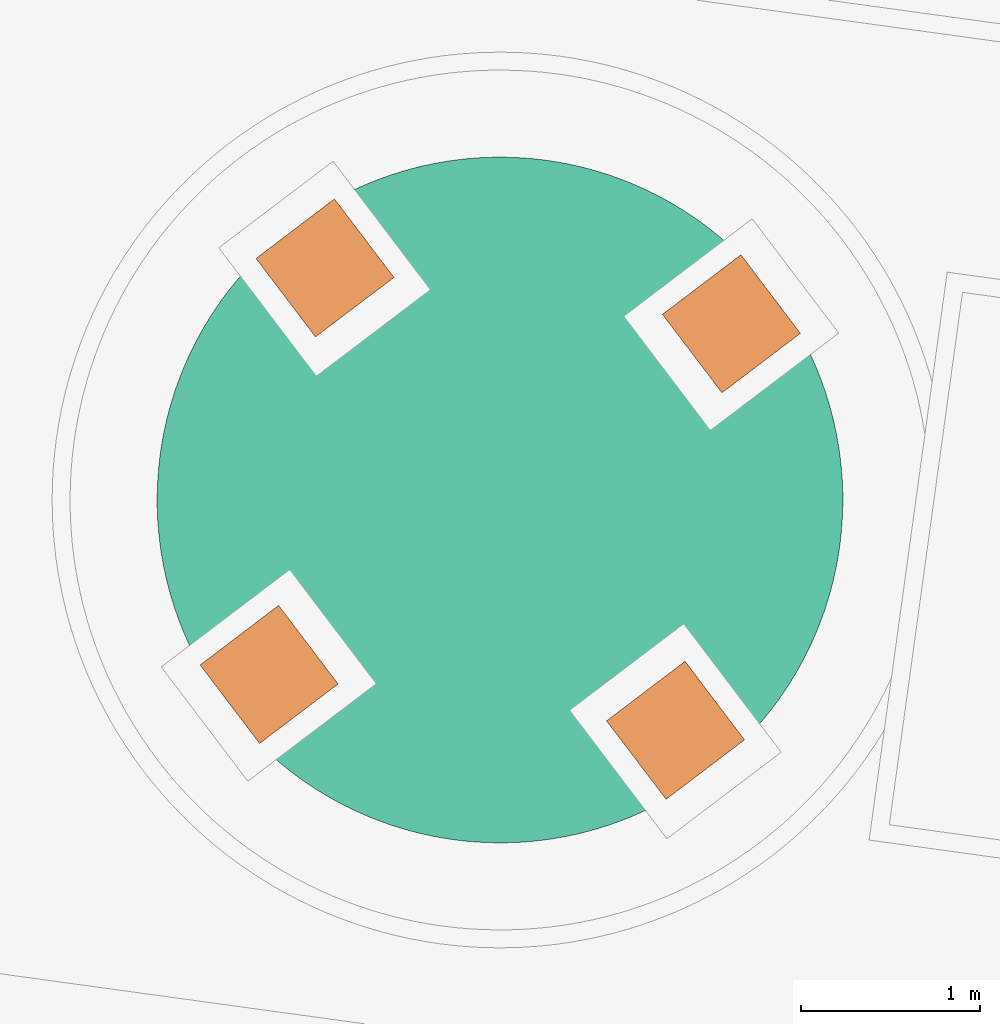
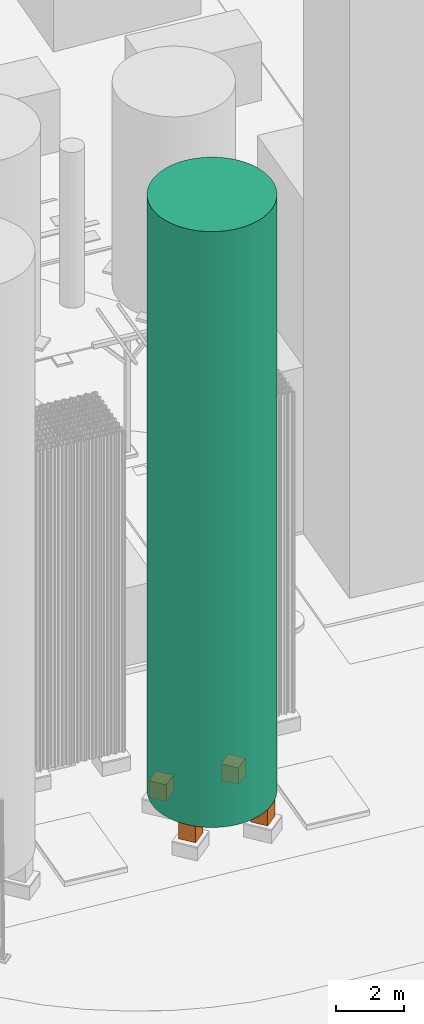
# Not in any storey, part 32 of 75: 4 proxies, 1 tank.
"""IFC4 model written with IfcOpenShell, lengths in metres."""

from ifc_helpers import new_model, si_unit, direction, origin_with_axes, place, context, subcontext, project, spatial, triangles, element, aggregate, save


model = new_model("IFC4")

# Units and contexts
model_context = context("Model", 3, precision=1e-05, world=origin_with_axes(), true_north=direction((0.0, 1.0)))
body_context = subcontext(model_context, "Body", "Model", "MODEL_VIEW")
ifc_project = project(units=[si_unit("AREAUNIT", "SQUARE_METRE"), si_unit("VOLUMEUNIT", "CUBIC_METRE"), si_unit("LENGTHUNIT", "METRE")], contexts=[model_context])

# Site
site_placement = place(None, origin_with_axes())
site = spatial("IfcSite", under=ifc_project, at=site_placement, Name="Parcela industrial Jinhong")

# Tank, proxies
tank_placement = place(site_placement, origin_with_axes())
tank = element("IfcTank", 1, at=tank_placement, inside=site, Name="Depósito de nitrógeno líquido SV1801B · Envolvente cilíndrica del depósito", PredefinedType="STORAGE", context=body_context, shape_type="Tessellation", body=[
    triangles([(45.901389, 31.204556, 23.627), (45.880279, 31.081099, 23.627), (45.891845, 31.142655, 23.627), (45.880279, 31.081099, 2.2), (45.901389, 31.204556, 2.2), (45.891845, 31.142655, 2.2), (45.91438, 31.329129, 23.627), (45.908904, 31.266736, 23.627), (45.908904, 31.266736, 2.2), (45.91438, 31.329129, 2.2), (45.919195, 31.454285, 23.627), (45.917811, 31.391668, 23.627), (45.917811, 31.391668, 2.2), (45.919195, 31.454285, 2.2), (45.915814, 31.579488, 23.627), (45.918529, 31.516914, 23.627), (45.918529, 31.516914, 2.2), (45.915814, 31.579488, 2.2), (45.904252, 31.704202, 23.627), (45.911053, 31.641939, 23.627), (45.911053, 31.641939, 2.2), (45.904252, 31.704202, 2.2), (45.884558, 31.827892, 23.627), (45.895417, 31.766208, 23.627), (45.895417, 31.766208, 2.2), (45.884558, 31.827892, 2.2), (45.856816, 31.95003, 23.627), (45.871686, 31.889188, 23.627), (45.871686, 31.889188, 2.2), (45.856816, 31.95003, 2.2), (45.821145, 32.070092, 23.627), (45.839963, 32.010353, 23.627), (45.839963, 32.010353, 2.2), (45.821145, 32.070092, 2.2), (45.777699, 32.187564, 23.627), (45.800383, 32.129183, 23.627), (45.800383, 32.129183, 2.2), (45.777699, 32.187564, 2.2), (45.726662, 32.301942, 23.627), (45.753116, 32.245171, 23.627), (45.753116, 32.245171, 2.2), (45.726662, 32.301942, 2.2), (45.668254, 32.412738, 23.627), (45.698365, 32.357818, 23.627), (45.698365, 32.357818, 2.2), (45.668254, 32.412738, 2.2), (45.602725, 32.519477, 23.627), (45.636363, 32.466644, 23.627), (45.636363, 32.466644, 2.2), (45.602725, 32.519477, 2.2), (45.530355, 32.621701, 23.627), (45.567376, 32.571181, 23.627), (45.567376, 32.571181, 2.2), (45.530355, 32.621701, 2.2), (45.451454, 32.718973, 23.627), (45.4917, 32.670983, 23.627), (45.4917, 32.670983, 2.2), (45.451454, 32.718973, 2.2), (45.36636, 32.810877, 23.627), (45.409659, 32.765621, 23.627), (45.409659, 32.765621, 2.2), (45.36636, 32.810877, 2.2), (45.275438, 32.897018, 23.627), (45.321604, 32.854691, 23.627), (45.321604, 32.854691, 2.2), (45.275438, 32.897018, 2.2), (45.179076, 32.977028, 23.627), (45.227911, 32.937812, 23.627), (45.227911, 32.937812, 2.2), (45.179076, 32.977028, 2.2), (45.077687, 33.050565, 23.627), (45.128983, 33.014626, 23.627), (45.128983, 33.014626, 2.2), (45.077687, 33.050565, 2.2), (44.971707, 33.117313, 23.627), (45.025243, 33.084806, 23.627), (45.025243, 33.084806, 2.2), (44.971707, 33.117313, 2.2), (44.861587, 33.176987, 23.627), (44.917135, 33.148051, 23.627), (44.917135, 33.148051, 2.2), (44.861587, 33.176987, 2.2), (44.747801, 33.22933, 23.627), (44.805122, 33.204089, 23.627), (44.805122, 33.204089, 2.2), (44.747801, 33.22933, 2.2), (44.630835, 33.27412, 23.627), (44.689684, 33.252682, 23.627), (44.689684, 33.252682, 2.2), (44.630835, 33.27412, 2.2), (44.511189, 33.311164, 23.627), (44.571315, 33.293621, 23.627), (44.571315, 33.293621, 2.2), (44.511189, 33.311164, 2.2), (44.389377, 33.340303, 23.627), (44.450522, 33.32673, 23.627), (44.450522, 33.32673, 2.2), (44.389377, 33.340303, 2.2), (44.265921, 33.361413, 23.627), (44.327822, 33.351868, 23.627), (44.327822, 33.351868, 2.2), (44.265921, 33.361413, 2.2), (44.141347, 33.374404, 23.627), (44.20374, 33.368928, 23.627), (44.20374, 33.368928, 2.2), (44.141347, 33.374404, 2.2), (44.016191, 33.379219, 23.627), (44.078809, 33.377835, 23.627), (44.078809, 33.377835, 2.2), (44.016191, 33.379219, 2.2), (43.890988, 33.375838, 23.627), (43.953562, 33.378553, 23.627), (43.953562, 33.378553, 2.2), (43.890988, 33.375838, 2.2), (43.766275, 33.364276, 23.627), (43.828537, 33.371077, 23.627), (43.828537, 33.371077, 2.2), (43.766275, 33.364276, 2.2), (43.642584, 33.344581, 23.627), (43.704268, 33.355441, 23.627), (43.704268, 33.355441, 2.2), (43.642584, 33.344581, 2.2), (43.520446, 33.31684, 23.627), (43.581288, 33.33171, 23.627), (43.581288, 33.33171, 2.2), (43.520446, 33.31684, 2.2), (43.400384, 33.281169, 23.627), (43.460124, 33.299987, 23.627), (43.460124, 33.299987, 2.2), (43.400384, 33.281169, 2.2), (43.282913, 33.237723, 23.627), (43.341293, 33.260407, 23.627), (43.341293, 33.260407, 2.2), (43.282913, 33.237723, 2.2), (43.168534, 33.186686, 23.627), (43.225306, 33.21314, 23.627), (43.225306, 33.21314, 2.2), (43.168534, 33.186686, 2.2), (43.057738, 33.128278, 23.627), (43.112658, 33.158389, 23.627), (43.112658, 33.158389, 2.2), (43.057738, 33.128278, 2.2), (42.951, 33.062749, 23.627), (43.003833, 33.096387, 23.627), (43.003833, 33.096387, 2.2), (42.951, 33.062749, 2.2), (42.848775, 32.990379, 23.627), (42.899295, 33.0274, 23.627), (42.899295, 33.0274, 2.2), (42.848775, 32.990379, 2.2), (42.751503, 32.911478, 23.627), (42.799494, 32.951724, 23.627), (42.799494, 32.951724, 2.2), (42.751503, 32.911478, 2.2), (42.6596, 32.826384, 23.627), (42.704855, 32.869683, 23.627), (42.704855, 32.869683, 2.2), (42.6596, 32.826384, 2.2), (42.573458, 32.735461, 23.627), (42.615785, 32.781627, 23.627), (42.615785, 32.781627, 2.2), (42.573458, 32.735461, 2.2), (42.493448, 32.639099, 23.627), (42.532665, 32.687935, 23.627), (42.532665, 32.687935, 2.2), (42.493448, 32.639099, 2.2), (42.419912, 32.537711, 23.627), (42.45585, 32.589007, 23.627), (42.45585, 32.589007, 2.2), (42.419912, 32.537711, 2.2), (42.353163, 32.43173, 23.627), (42.38567, 32.485267, 23.627), (42.38567, 32.485267, 2.2), (42.353163, 32.43173, 2.2), (42.29349, 32.321611, 23.627), (42.322426, 32.377159, 23.627), (42.322426, 32.377159, 2.2), (42.29349, 32.321611, 2.2), (42.241146, 32.207825, 23.627), (42.266387, 32.265146, 23.627), (42.266387, 32.265146, 2.2), (42.241146, 32.207825, 2.2), (42.196356, 32.090858, 23.627), (42.217794, 32.149708, 23.627), (42.217794, 32.149708, 2.2), (42.196356, 32.090858, 2.2), (42.159313, 31.971213, 23.627), (42.176856, 32.031339, 23.627), (42.176856, 32.031339, 2.2), (42.159313, 31.971213, 2.2), (42.130173, 31.849401, 23.627), (42.143746, 31.910546, 23.627), (42.143746, 31.910546, 2.2), (42.130173, 31.849401, 2.2), (42.109063, 31.725944, 23.627), (42.118608, 31.787845, 23.627), (42.118608, 31.787845, 2.2), (42.109063, 31.725944, 2.2), (42.096073, 31.601371, 23.627), (42.101549, 31.663764, 23.627), (42.101549, 31.663764, 2.2), (42.096073, 31.601371, 2.2), (42.091258, 31.476215, 23.627), (42.092641, 31.538833, 23.627), (42.092641, 31.538833, 2.2), (42.091258, 31.476215, 2.2), (42.094639, 31.351012, 23.627), (42.091924, 31.413586, 23.627), (42.091924, 31.413586, 2.2), (42.094639, 31.351012, 2.2), (42.106201, 31.226298, 23.627), (42.099399, 31.288561, 23.627), (42.099399, 31.288561, 2.2), (42.106201, 31.226298, 2.2), (42.125895, 31.102608, 23.627), (42.115036, 31.164292, 23.627), (42.115036, 31.164292, 2.2), (42.125895, 31.102608, 2.2), (42.153637, 30.98047, 23.627), (42.138766, 31.041312, 23.627), (42.138766, 31.041312, 2.2), (42.153637, 30.98047, 2.2), (42.189307, 30.860408, 23.627), (42.17049, 30.920147, 23.627), (42.17049, 30.920147, 2.2), (42.189307, 30.860408, 2.2), (42.232754, 30.742936, 23.627), (42.210069, 30.801317, 23.627), (42.210069, 30.801317, 2.2), (42.232754, 30.742936, 2.2), (42.28379, 30.628558, 23.627), (42.257336, 30.685329, 23.627), (42.257336, 30.685329, 2.2), (42.28379, 30.628558, 2.2), (42.342198, 30.517762, 23.627), (42.312088, 30.572682, 23.627), (42.312088, 30.572682, 2.2), (42.342198, 30.517762, 2.2), (42.407728, 30.411023, 23.627), (42.37409, 30.463856, 23.627), (42.37409, 30.463856, 2.2), (42.407728, 30.411023, 2.2), (42.480098, 30.308799, 23.627), (42.443076, 30.359319, 23.627), (42.443076, 30.359319, 2.2), (42.480098, 30.308799, 2.2), (42.558999, 30.211527, 23.627), (42.518752, 30.259517, 23.627), (42.518752, 30.259517, 2.2), (42.558999, 30.211527, 2.2), (42.644093, 30.119623, 23.627), (42.600794, 30.164879, 23.627), (42.600794, 30.164879, 2.2), (42.644093, 30.119623, 2.2), (42.735015, 30.033482, 23.627), (42.688849, 30.075809, 23.627), (42.688849, 30.075809, 2.2), (42.735015, 30.033482, 2.2), (42.831377, 29.953472, 23.627), (42.782541, 29.992688, 23.627), (42.782541, 29.992688, 2.2), (42.831377, 29.953472, 2.2), (42.932765, 29.879935, 23.627), (42.881469, 29.915874, 23.627), (42.881469, 29.915874, 2.2), (42.932765, 29.879935, 2.2), (43.038746, 29.813187, 23.627), (42.985209, 29.845694, 23.627), (42.985209, 29.845694, 2.2), (43.038746, 29.813187, 2.2), (43.148865, 29.753514, 23.627), (43.093317, 29.782449, 23.627), (43.093317, 29.782449, 2.2), (43.148865, 29.753514, 2.2), (43.262652, 29.70117, 23.627), (43.20533, 29.726411, 23.627), (43.20533, 29.726411, 2.2), (43.262652, 29.70117, 2.2), (43.379618, 29.65638, 23.627), (43.320769, 29.677818, 23.627), (43.320769, 29.677818, 2.2), (43.379618, 29.65638, 2.2), (43.499263, 29.619336, 23.627), (43.439138, 29.636879, 23.627), (43.439138, 29.636879, 2.2), (43.499263, 29.619336, 2.2), (43.621075, 29.590197, 23.627), (43.559931, 29.60377, 23.627), (43.559931, 29.60377, 2.2), (43.621075, 29.590197, 2.2), (43.744532, 29.569087, 23.627), (43.682631, 29.578632, 23.627), (43.682631, 29.578632, 2.2), (43.744532, 29.569087, 2.2), (43.869105, 29.556097, 23.627), (43.806712, 29.561573, 23.627), (43.806712, 29.561573, 2.2), (43.869105, 29.556097, 2.2), (43.994261, 29.551281, 23.627), (43.931644, 29.552665, 23.627), (43.931644, 29.552665, 2.2), (43.994261, 29.551281, 2.2), (44.119464, 29.554662, 23.627), (44.05689, 29.551947, 23.627), (44.05689, 29.551947, 2.2), (44.119464, 29.554662, 2.2), (44.244178, 29.566224, 23.627), (44.181916, 29.559423, 23.627), (44.181916, 29.559423, 2.2), (44.244178, 29.566224, 2.2), (44.367869, 29.585919, 23.627), (44.306185, 29.57506, 23.627), (44.306185, 29.57506, 2.2), (44.367869, 29.585919, 2.2), (44.490006, 29.61366, 23.627), (44.429165, 29.59879, 23.627), (44.429165, 29.59879, 2.2), (44.490006, 29.61366, 2.2), (44.610068, 29.649331, 23.627), (44.550329, 29.630513, 23.627), (44.550329, 29.630513, 2.2), (44.610068, 29.649331, 2.2), (44.72754, 29.692777, 23.627), (44.66916, 29.670093, 23.627), (44.66916, 29.670093, 2.2), (44.72754, 29.692777, 2.2), (44.841919, 29.743814, 23.627), (44.785147, 29.71736, 23.627), (44.785147, 29.71736, 2.2), (44.841919, 29.743814, 2.2), (44.952715, 29.802222, 23.627), (44.897795, 29.772112, 23.627), (44.897795, 29.772112, 2.2), (44.952715, 29.802222, 2.2), (45.059453, 29.867751, 23.627), (45.00662, 29.834113, 23.627), (45.00662, 29.834113, 2.2), (45.059453, 29.867751, 2.2), (45.161677, 29.940122, 23.627), (45.111157, 29.9031, 23.627), (45.111157, 29.9031, 2.2), (45.161677, 29.940122, 2.2), (45.25895, 30.019022, 23.627), (45.210959, 29.978776, 23.627), (45.210959, 29.978776, 2.2), (45.25895, 30.019022, 2.2), (45.350853, 30.104116, 23.627), (45.305598, 30.060817, 23.627), (45.305598, 30.060817, 2.2), (45.350853, 30.104116, 2.2), (45.436994, 30.195039, 23.627), (45.394668, 30.148873, 23.627), (45.394668, 30.148873, 2.2), (45.436994, 30.195039, 2.2), (45.517005, 30.291401, 23.627), (45.477788, 30.242565, 23.627), (45.477788, 30.242565, 2.2), (45.517005, 30.291401, 2.2), (45.590541, 30.392789, 23.627), (45.554602, 30.341493, 23.627), (45.554602, 30.341493, 2.2), (45.590541, 30.392789, 2.2), (45.657289, 30.49877, 23.627), (45.624782, 30.445233, 23.627), (45.624782, 30.445233, 2.2), (45.657289, 30.49877, 2.2), (45.716963, 30.608889, 23.627), (45.688027, 30.553341, 23.627), (45.688027, 30.553341, 2.2), (45.716963, 30.608889, 2.2), (45.769307, 30.722676, 23.627), (45.744066, 30.665354, 23.627), (45.744066, 30.665354, 2.2), (45.769307, 30.722676, 2.2), (45.814096, 30.839642, 23.627), (45.792658, 30.780792, 23.627), (45.792658, 30.780792, 2.2), (45.814096, 30.839642, 2.2), (45.85114, 30.959287, 23.627), (45.833597, 30.899161, 23.627), (45.833597, 30.899161, 2.2), (45.85114, 30.959287, 2.2), (45.866706, 31.019955, 23.627), (45.866706, 31.019955, 2.2)], [[1, 2, 3], [4, 5, 6], [8, 7, 1], [9, 5, 10], [12, 11, 7], [13, 10, 14], [16, 15, 11], [17, 14, 18], [20, 19, 15], [21, 18, 22], [24, 23, 19], [25, 22, 26], [28, 27, 23], [29, 26, 30], [32, 31, 27], [33, 30, 34], [36, 35, 31], [37, 34, 38], [40, 39, 35], [41, 38, 42], [44, 43, 39], [45, 42, 46], [48, 47, 43], [49, 46, 50], [52, 51, 47], [53, 50, 54], [56, 55, 51], [57, 54, 58], [60, 59, 55], [61, 58, 62], [64, 63, 59], [65, 62, 66], [68, 67, 63], [69, 66, 70], [72, 71, 67], [73, 70, 74], [76, 75, 71], [77, 74, 78], [80, 79, 75], [81, 78, 82], [84, 83, 79], [85, 82, 86], [88, 87, 83], [89, 86, 90], [92, 91, 87], [93, 90, 94], [96, 95, 91], [97, 94, 98], [100, 99, 95], [101, 98, 102], [104, 103, 99], [105, 102, 106], [108, 107, 103], [109, 106, 110], [112, 111, 107], [113, 110, 114], [116, 115, 111], [117, 114, 118], [120, 119, 115], [121, 118, 122], [124, 123, 119], [125, 122, 126], [128, 127, 123], [129, 126, 130], [132, 131, 127], [133, 130, 134], [136, 135, 131], [137, 134, 138], [140, 139, 135], [141, 138, 142], [144, 143, 139], [145, 142, 146], [148, 147, 143], [149, 146, 150], [152, 151, 147], [153, 150, 154], [156, 155, 151], [157, 154, 158], [160, 159, 155], [161, 158, 162], [164, 163, 159], [165, 162, 166], [168, 167, 163], [169, 166, 170], [172, 171, 167], [173, 170, 174], [176, 175, 171], [177, 174, 178], [180, 179, 175], [181, 178, 182], [184, 183, 179], [185, 182, 186], [188, 187, 183], [189, 186, 190], [192, 191, 187], [193, 190, 194], [196, 195, 191], [197, 194, 198], [200, 199, 195], [201, 198, 202], [204, 203, 199], [205, 202, 206], [208, 207, 203], [209, 206, 210], [212, 211, 207], [213, 210, 214], [216, 215, 211], [217, 214, 218], [220, 219, 215], [221, 218, 222], [224, 223, 219], [225, 222, 226], [228, 227, 223], [229, 226, 230], [232, 231, 227], [233, 230, 234], [236, 235, 231], [237, 234, 238], [240, 239, 235], [241, 238, 242], [244, 243, 239], [245, 242, 246], [248, 247, 243], [249, 246, 250], [252, 251, 247], [253, 250, 254], [256, 255, 251], [257, 254, 258], [260, 259, 255], [261, 258, 262], [264, 263, 259], [265, 262, 266], [268, 267, 263], [269, 266, 270], [272, 271, 267], [273, 270, 274], [276, 275, 271], [277, 274, 278], [280, 279, 275], [281, 278, 282], [284, 283, 279], [285, 282, 286], [288, 287, 283], [289, 286, 290], [292, 291, 287], [293, 290, 294], [296, 295, 291], [297, 294, 298], [300, 299, 295], [301, 298, 302], [304, 303, 299], [305, 302, 306], [308, 307, 303], [309, 306, 310], [312, 311, 307], [313, 310, 314], [316, 315, 311], [317, 314, 318], [320, 319, 315], [321, 318, 322], [324, 323, 319], [325, 322, 326], [328, 327, 323], [329, 326, 330], [332, 331, 327], [333, 330, 334], [336, 335, 331], [337, 334, 338], [340, 339, 335], [341, 338, 342], [344, 343, 339], [345, 342, 346], [348, 347, 343], [349, 346, 350], [352, 351, 347], [353, 350, 354], [356, 355, 351], [357, 354, 358], [360, 359, 355], [361, 358, 362], [364, 363, 359], [365, 362, 366], [368, 367, 363], [369, 366, 370], [372, 371, 367], [373, 370, 374], [376, 375, 371], [377, 374, 378], [380, 379, 375], [381, 378, 382], [383, 2, 379], [382, 4, 384], [7, 2, 1], [5, 4, 10], [11, 15, 7], [14, 10, 18], [19, 23, 15], [22, 18, 26], [27, 31, 23], [30, 26, 34], [35, 39, 31], [38, 34, 42], [43, 47, 39], [46, 42, 50], [51, 55, 47], [54, 50, 58], [59, 63, 55], [62, 58, 66], [67, 71, 63], [70, 66, 74], [75, 79, 71], [78, 74, 82], [83, 87, 79], [86, 82, 90], [91, 95, 87], [94, 90, 98], [99, 103, 95], [102, 98, 106], [103, 107, 111], [114, 110, 106], [115, 119, 111], [118, 114, 122], [123, 127, 119], [126, 122, 130], [131, 135, 127], [134, 130, 138], [139, 143, 135], [142, 138, 146], [147, 151, 143], [150, 146, 154], [155, 159, 151], [158, 154, 162], [163, 167, 159], [166, 162, 170], [171, 175, 167], [174, 170, 178], [179, 183, 175], [182, 178, 186], [187, 191, 183], [190, 186, 194], [195, 199, 191], [198, 194, 202], [203, 207, 199], [206, 202, 210], [211, 215, 207], [214, 210, 218], [219, 223, 215], [222, 218, 226], [227, 231, 223], [230, 226, 234], [235, 239, 231], [238, 234, 242], [243, 247, 239], [246, 242, 250], [251, 255, 247], [254, 250, 258], [259, 263, 255], [262, 258, 266], [267, 271, 263], [270, 266, 274], [275, 279, 271], [278, 274, 282], [283, 287, 279], [286, 282, 290], [291, 295, 287], [294, 290, 298], [299, 303, 295], [302, 298, 306], [307, 311, 303], [310, 306, 314], [315, 319, 311], [318, 314, 322], [323, 327, 319], [326, 322, 330], [331, 335, 327], [334, 330, 338], [339, 343, 335], [342, 338, 346], [347, 351, 343], [350, 346, 354], [355, 359, 351], [358, 354, 362], [363, 367, 359], [366, 362, 370], [371, 375, 367], [374, 370, 378], [379, 2, 375], [378, 4, 382], [7, 15, 2], [10, 4, 18], [23, 31, 15], [26, 18, 34], [39, 47, 31], [42, 34, 50], [55, 63, 47], [58, 50, 66], [71, 79, 63], [74, 66, 82], [87, 95, 79], [90, 82, 98], [95, 103, 111], [114, 106, 98], [119, 127, 111], [122, 114, 130], [135, 143, 127], [138, 130, 146], [151, 159, 143], [154, 146, 162], [167, 175, 159], [170, 162, 178], [183, 191, 175], [186, 178, 194], [199, 207, 191], [202, 194, 210], [215, 223, 207], [218, 210, 226], [231, 239, 223], [234, 226, 242], [247, 255, 239], [250, 242, 258], [263, 271, 255], [266, 258, 274], [279, 287, 271], [282, 274, 290], [295, 303, 287], [298, 290, 306], [311, 319, 303], [314, 306, 322], [327, 335, 319], [330, 322, 338], [343, 351, 335], [346, 338, 354], [359, 367, 351], [362, 354, 370], [375, 2, 367], [370, 4, 378], [15, 31, 2], [18, 4, 34], [47, 63, 31], [50, 34, 66], [79, 95, 63], [82, 66, 98], [95, 111, 127], [130, 114, 98], [143, 159, 127], [146, 130, 162], [175, 191, 159], [178, 162, 194], [207, 223, 191], [210, 194, 226], [239, 255, 223], [242, 226, 258], [271, 287, 255], [274, 258, 290], [303, 319, 287], [306, 290, 322], [335, 351, 319], [338, 322, 354], [367, 2, 351], [354, 4, 370], [31, 63, 2], [34, 4, 66], [63, 95, 127], [130, 98, 66], [127, 159, 191], [194, 162, 130], [191, 223, 255], [258, 226, 194], [287, 319, 255], [290, 258, 322], [351, 2, 319], [322, 4, 354], [2, 63, 127], [130, 66, 4], [127, 191, 255], [258, 194, 130], [319, 2, 255], [258, 4, 322], [2, 127, 255], [258, 130, 4], [5, 9, 8], [5, 8, 1], [7, 9, 10], [7, 8, 9], [10, 13, 12], [10, 12, 7], [11, 13, 14], [11, 12, 13], [14, 17, 16], [14, 16, 11], [15, 17, 18], [15, 16, 17], [18, 21, 20], [18, 20, 15], [19, 21, 22], [19, 20, 21], [22, 25, 24], [22, 24, 19], [23, 25, 26], [23, 24, 25], [26, 29, 28], [26, 28, 23], [27, 29, 30], [27, 28, 29], [30, 33, 32], [30, 32, 27], [31, 33, 34], [31, 32, 33], [34, 37, 36], [34, 36, 31], [35, 37, 38], [35, 36, 37], [38, 41, 40], [38, 40, 35], [39, 41, 42], [39, 40, 41], [42, 45, 44], [42, 44, 39], [43, 45, 46], [43, 44, 45], [46, 49, 48], [46, 48, 43], [47, 49, 50], [47, 48, 49], [50, 53, 52], [50, 52, 47], [51, 53, 54], [51, 52, 53], [54, 57, 56], [54, 56, 51], [55, 57, 58], [55, 56, 57], [58, 61, 60], [58, 60, 55], [59, 61, 62], [59, 60, 61], [64, 62, 65], [64, 59, 62], [63, 65, 66], [63, 64, 65], [68, 66, 69], [68, 63, 66], [67, 69, 70], [67, 68, 69], [72, 70, 73], [72, 67, 70], [71, 73, 74], [71, 72, 73], [76, 74, 77], [76, 71, 74], [75, 77, 78], [75, 76, 77], [80, 78, 81], [80, 75, 78], [79, 81, 82], [79, 80, 81], [84, 82, 85], [84, 79, 82], [83, 85, 86], [83, 84, 85], [88, 86, 89], [88, 83, 86], [87, 89, 90], [87, 88, 89], [92, 90, 93], [92, 87, 90], [91, 93, 94], [91, 92, 93], [96, 94, 97], [96, 91, 94], [95, 97, 98], [95, 96, 97], [100, 98, 101], [100, 95, 98], [99, 101, 102], [99, 100, 101], [104, 102, 105], [104, 99, 102], [103, 105, 106], [103, 104, 105], [108, 106, 109], [108, 103, 106], [107, 109, 110], [107, 108, 109], [112, 110, 113], [112, 107, 110], [111, 113, 114], [111, 112, 113], [116, 114, 117], [116, 111, 114], [115, 117, 118], [115, 116, 117], [120, 118, 121], [120, 115, 118], [119, 121, 122], [119, 120, 121], [124, 122, 125], [124, 119, 122], [123, 125, 126], [123, 124, 125], [128, 126, 129], [128, 123, 126], [127, 129, 130], [127, 128, 129], [132, 130, 133], [132, 127, 130], [131, 133, 134], [131, 132, 133], [136, 134, 137], [136, 131, 134], [135, 137, 138], [135, 136, 137], [140, 138, 141], [140, 135, 138], [139, 141, 142], [139, 140, 141], [144, 142, 145], [144, 139, 142], [143, 145, 146], [143, 144, 145], [148, 146, 149], [148, 143, 146], [147, 149, 150], [147, 148, 149], [152, 150, 153], [152, 147, 150], [151, 153, 154], [151, 152, 153], [156, 154, 157], [156, 151, 154], [155, 157, 158], [155, 156, 157], [158, 161, 160], [158, 160, 155], [159, 161, 162], [159, 160, 161], [162, 165, 164], [162, 164, 159], [163, 165, 166], [163, 164, 165], [166, 169, 168], [166, 168, 163], [167, 169, 170], [167, 168, 169], [170, 173, 172], [170, 172, 167], [171, 173, 174], [171, 172, 173], [174, 177, 176], [174, 176, 171], [175, 177, 178], [175, 176, 177], [178, 181, 180], [178, 180, 175], [179, 181, 182], [179, 180, 181], [182, 185, 184], [182, 184, 179], [183, 185, 186], [183, 184, 185], [186, 189, 188], [186, 188, 183], [187, 189, 190], [187, 188, 189], [190, 193, 192], [190, 192, 187], [191, 193, 194], [191, 192, 193], [194, 197, 196], [194, 196, 191], [195, 197, 198], [195, 196, 197], [198, 201, 200], [198, 200, 195], [199, 201, 202], [199, 200, 201], [202, 205, 204], [202, 204, 199], [203, 205, 206], [203, 204, 205], [206, 209, 208], [206, 208, 203], [207, 209, 210], [207, 208, 209], [210, 213, 212], [210, 212, 207], [211, 213, 214], [211, 212, 213], [214, 217, 216], [214, 216, 211], [215, 217, 218], [215, 216, 217], [218, 221, 220], [218, 220, 215], [219, 221, 222], [219, 220, 221], [222, 225, 224], [222, 224, 219], [223, 225, 226], [223, 224, 225], [226, 229, 228], [226, 228, 223], [227, 229, 230], [227, 228, 229], [230, 233, 232], [230, 232, 227], [231, 233, 234], [231, 232, 233], [234, 237, 236], [234, 236, 231], [235, 237, 238], [235, 236, 237], [238, 241, 240], [238, 240, 235], [239, 241, 242], [239, 240, 241], [242, 245, 244], [242, 244, 239], [243, 245, 246], [243, 244, 245], [246, 249, 248], [246, 248, 243], [247, 249, 250], [247, 248, 249], [250, 253, 252], [250, 252, 247], [251, 253, 254], [251, 252, 253], [256, 254, 257], [256, 251, 254], [255, 257, 258], [255, 256, 257], [260, 258, 261], [260, 255, 258], [259, 261, 262], [259, 260, 261], [264, 262, 265], [264, 259, 262], [263, 265, 266], [263, 264, 265], [268, 266, 269], [268, 263, 266], [267, 269, 270], [267, 268, 269], [272, 270, 273], [272, 267, 270], [271, 273, 274], [271, 272, 273], [276, 274, 277], [276, 271, 274], [275, 277, 278], [275, 276, 277], [280, 278, 281], [280, 275, 278], [279, 281, 282], [279, 280, 281], [284, 282, 285], [284, 279, 282], [283, 285, 286], [283, 284, 285], [288, 286, 289], [288, 283, 286], [287, 289, 290], [287, 288, 289], [292, 290, 293], [292, 287, 290], [291, 293, 294], [291, 292, 293], [296, 294, 297], [296, 291, 294], [295, 297, 298], [295, 296, 297], [300, 298, 301], [300, 295, 298], [299, 301, 302], [299, 300, 301], [304, 302, 305], [304, 299, 302], [303, 305, 306], [303, 304, 305], [308, 306, 309], [308, 303, 306], [307, 309, 310], [307, 308, 309], [312, 310, 313], [312, 307, 310], [311, 313, 314], [311, 312, 313], [316, 314, 317], [316, 311, 314], [315, 317, 318], [315, 316, 317], [320, 318, 321], [320, 315, 318], [319, 321, 322], [319, 320, 321], [324, 322, 325], [324, 319, 322], [323, 325, 326], [323, 324, 325], [328, 326, 329], [328, 323, 326], [327, 329, 330], [327, 328, 329], [332, 330, 333], [332, 327, 330], [331, 333, 334], [331, 332, 333], [336, 334, 337], [336, 331, 334], [335, 337, 338], [335, 336, 337], [340, 338, 341], [340, 335, 338], [339, 341, 342], [339, 340, 341], [344, 342, 345], [344, 339, 342], [343, 345, 346], [343, 344, 345], [348, 346, 349], [348, 343, 346], [347, 349, 350], [347, 348, 349], [350, 353, 352], [350, 352, 347], [351, 353, 354], [351, 352, 353], [354, 357, 356], [354, 356, 351], [355, 357, 358], [355, 356, 357], [358, 361, 360], [358, 360, 355], [359, 361, 362], [359, 360, 361], [362, 365, 364], [362, 364, 359], [363, 365, 366], [363, 364, 365], [366, 369, 368], [366, 368, 363], [367, 369, 370], [367, 368, 369], [370, 373, 372], [370, 372, 367], [371, 373, 374], [371, 372, 373], [374, 377, 376], [374, 376, 371], [375, 377, 378], [375, 376, 377], [378, 381, 380], [378, 380, 375], [379, 381, 382], [379, 380, 381], [382, 384, 383], [382, 383, 379], [384, 4, 2], [384, 2, 383], [3, 4, 6], [4, 3, 2], [6, 5, 1], [1, 3, 6]], closed=True),
])
proxy_1_placement = place(tank_placement, origin_with_axes())
proxy_1 = element("IfcBuildingElementProxy", 2, at=proxy_1_placement, Name="Depósito de nitrógeno líquido SV1801B · Envolvente de apoyo 1 · huella real en planta", context=body_context, shape_type="Tessellation", body=[
    triangles([(45.350448, 32.834192, 2.2), (44.911768, 32.501556, 2.2), (45.682227, 32.395629, 2.2), (44.911768, 32.501556, 1.6), (45.350448, 32.834192, 1.6), (45.682227, 32.395629, 1.6), (45.244521, 32.063733, 2.2), (45.244521, 32.063733, 1.6)], [[1, 2, 3], [4, 5, 6], [3, 2, 7], [8, 4, 6], [4, 8, 7], [4, 7, 2], [8, 6, 3], [8, 3, 7], [6, 5, 1], [1, 3, 6], [5, 4, 2], [5, 2, 1]], closed=True),
])
proxy_2_placement = place(tank_placement, origin_with_axes())
proxy_2 = element("IfcBuildingElementProxy", 3, at=proxy_2_placement, Name="Depósito de nitrógeno líquido SV1801B · Envolvente de apoyo 2 · huella real en planta", context=body_context, shape_type="Tessellation", body=[
    triangles([(45.038442, 30.564809, 2.2), (44.932515, 29.794351, 2.2), (45.37022, 30.126247, 2.2), (45.038442, 30.564809, 1.6), (45.37022, 30.126247, 1.6), (44.932515, 29.794351, 1.6), (44.599762, 30.232174, 2.2), (44.599762, 30.232174, 1.6)], [[1, 2, 3], [4, 5, 6], [2, 1, 7], [6, 8, 4], [7, 4, 8], [7, 1, 4], [8, 6, 2], [8, 2, 7], [6, 5, 3], [6, 3, 2], [5, 4, 1], [1, 3, 5]], closed=True),
])
proxy_3_placement = place(tank_placement, origin_with_axes())
proxy_3 = element("IfcBuildingElementProxy", 4, at=proxy_3_placement, Name="Depósito de nitrógeno líquido SV1801B · Envolvente de apoyo 3 · huella real en planta", context=body_context, shape_type="Tessellation", body=[
    triangles([(43.081066, 33.146198, 2.2), (42.643243, 32.813445, 2.2), (43.413701, 32.707518, 2.2), (42.643243, 32.813445, 1.6), (43.081066, 33.146198, 1.6), (43.413701, 32.707518, 1.6), (42.975139, 32.375739, 2.2), (42.975139, 32.375739, 1.6)], [[1, 2, 3], [4, 5, 6], [3, 2, 7], [8, 4, 6], [4, 8, 7], [4, 7, 2], [8, 6, 3], [8, 3, 7], [6, 5, 1], [1, 3, 6], [5, 4, 2], [5, 2, 1]], closed=True),
])
proxy_4_placement = place(tank_placement, origin_with_axes())
proxy_4 = element("IfcBuildingElementProxy", 5, at=proxy_4_placement, Name="Depósito de nitrógeno líquido SV1801B · Envolvente de apoyo 4 · huella real en planta", context=body_context, shape_type="Tessellation", body=[
    triangles([(43.101695, 30.438136, 2.2), (42.331236, 30.544062, 2.2), (42.663133, 30.106357, 2.2), (42.331236, 30.544062, 1.6), (43.101695, 30.438136, 1.6), (42.663133, 30.106357, 1.6), (42.769059, 30.876816, 2.2), (42.769059, 30.876816, 1.6)], [[1, 2, 3], [4, 5, 6], [1, 7, 2], [5, 4, 8], [5, 8, 7], [5, 7, 1], [8, 4, 2], [8, 2, 7], [3, 4, 6], [4, 3, 2], [6, 5, 1], [1, 3, 6]], closed=True),
])
aggregate(tank, [proxy_1, proxy_2, proxy_3, proxy_4])

save(model, "model.ifc")
